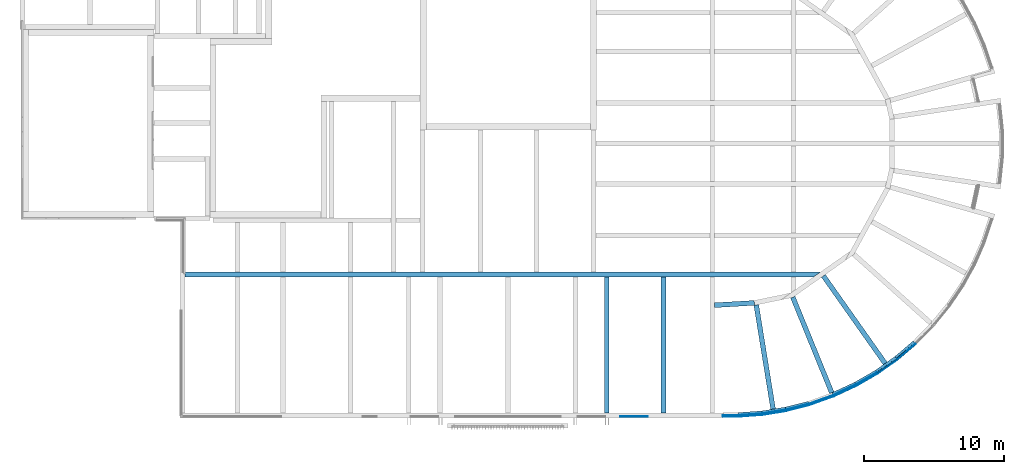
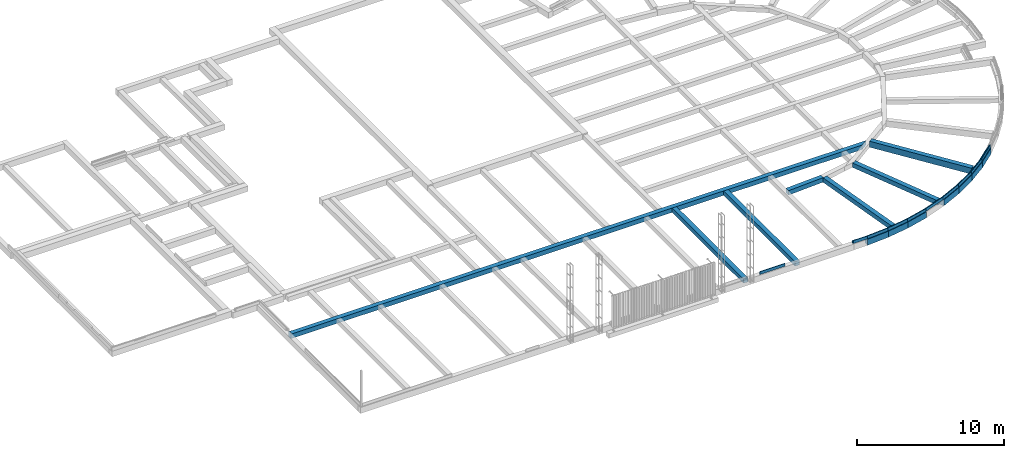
# One storey, part 3 of 11: 33 walls.
"""IFC2X3 building model written with IfcOpenShell, lengths in millimetres."""

import ifcopenshell
import ifcopenshell.guid

model = None  # the IFC model being written
_history = None  # IfcOwnerHistory: only IFC2X3 demands one
_inside = {}  # id of a spatial element -> (the spatial element, [elements in it])
_under = {}  # id of a project, library or spatial element -> (it, [spatial elements below it])
_declared = {}  # id of a project -> (the project, [libraries it declares])
_typed = {}  # id of a type object -> (the type object, [elements of that type])
_made_of = {}  # id of a material, layer set ... -> (it, [elements and type objects made of it])


def new_model(schema):
    """Start an empty IFC model of exactly this schema.

    Asked for "IFC4X3", IfcOpenShell would pick the latest addendum, in which some entities
    have other attributes; the version numbers below select the first issue.
    IFC2X3 requires an IfcOwnerHistory on every rooted entity: one is made here for all.
    """
    global model, _history
    if schema == "IFC4X3":
        model = ifcopenshell.file(schema_version=(4, 3, 0, 0))
    else:
        model = ifcopenshell.file(schema=schema)
    _inside.clear()
    _under.clear()
    _declared.clear()
    _typed.clear()
    _made_of.clear()
    _history = None
    if model.schema == "IFC2X3":
        org = make("IfcOrganization", Name="unknown")
        user = make(
            "IfcPersonAndOrganization",
            ThePerson=make("IfcPerson", FamilyName="unknown"),
            TheOrganization=org,
        )
        app = make(
            "IfcApplication",
            ApplicationDeveloper=org,
            Version="unknown",
            ApplicationFullName="unknown",
            ApplicationIdentifier="unknown",
        )
        _history = make(
            "IfcOwnerHistory",
            OwningUser=user,
            OwningApplication=app,
            ChangeAction="ADDED",
            CreationDate=0,
        )
    return model


def make(cls, **values):
    """One entity of the class cls with the attributes given. An attribute that is None is left unset."""
    return model.create_entity(
        cls, **{name: value for name, value in values.items() if value is not None}
    )


def entity(cls, *values):
    """Any entity or typed value of the class cls, its attributes in the order of the schema. None: left unset."""
    e = model.create_entity(cls)
    for i, value in enumerate(values):
        if value is not None:
            e[i] = value
    return e


def rooted(cls, **values):
    """An entity with a GlobalId (a new one), such as an element, a storey or a relation."""
    return make(cls, GlobalId=ifcopenshell.guid.new(), OwnerHistory=_history, **values)


def si_unit(unit_type, name, prefix=None):
    """IfcSIUnit, for example si_unit("LENGTHUNIT", "METRE", prefix="MILLI")."""
    return make("IfcSIUnit", UnitType=unit_type, Prefix=prefix, Name=name)


def converted_unit(unit_type, name, factor, base, dimensions=None, offset=None):
    """IfcConversionBasedUnit, such as the inch: factor (a typed value) times the base unit."""
    return make(
        "IfcConversionBasedUnit"
        if offset is None
        else "IfcConversionBasedUnitWithOffset",
        ConversionOffset=offset,
        Dimensions=None
        if dimensions is None
        else entity("IfcDimensionalExponents", *dimensions),
        UnitType=unit_type,
        Name=name,
        ConversionFactor=make(
            "IfcMeasureWithUnit", ValueComponent=factor, UnitComponent=base
        ),
    )


def derived_unit(unit_type, elements):
    """IfcDerivedUnit: a product of units, each with its exponent."""
    return make(
        "IfcDerivedUnit",
        Elements=[
            make("IfcDerivedUnitElement", Unit=unit, Exponent=power)
            for unit, power in elements
        ],
        UnitType=unit_type,
    )


def assignment(units):
    """IfcUnitAssignment: the units of a project."""
    return None if units is None else make("IfcUnitAssignment", Units=units)


def point(xyz):
    """IfcCartesianPoint."""
    return None if xyz is None else make("IfcCartesianPoint", Coordinates=xyz)


def direction(xyz):
    """IfcDirection."""
    return None if xyz is None else make("IfcDirection", DirectionRatios=xyz)


def frame(location, z_axis=None, x_axis=None):
    """IfcAxis2Placement3D, a coordinate frame: its origin and axes. An axis left out is left unset."""
    return make(
        "IfcAxis2Placement3D",
        Location=point(location),
        Axis=direction(z_axis),
        RefDirection=direction(x_axis),
    )


def frame_2d(location, x_axis=None):
    """IfcAxis2Placement2D, a coordinate frame in the plane: its origin and x axis."""
    return make(
        "IfcAxis2Placement2D", Location=point(location), RefDirection=direction(x_axis)
    )


def origin():
    """The frame at (0, 0, 0) with its axes left unset."""
    return frame((0.0, 0.0, 0.0))


def place(relative_to, where):
    """IfcLocalPlacement: puts the frame where relative to a parent placement (None: the world)."""
    return make(
        "IfcLocalPlacement", PlacementRelTo=relative_to, RelativePlacement=where
    )


def context(
    kind, dimensions, precision=None, world=None, true_north=None, identifier=None
):
    """IfcGeometricRepresentationContext, for example the 3D "Model" context."""
    return make(
        "IfcGeometricRepresentationContext",
        ContextIdentifier=identifier,
        ContextType=kind,
        CoordinateSpaceDimension=dimensions,
        Precision=precision,
        WorldCoordinateSystem=world,
        TrueNorth=true_north,
    )


def subcontext(parent, identifier, kind, view, scale=None):
    """IfcGeometricRepresentationSubContext, for example "Body" below "Model"."""
    return make(
        "IfcGeometricRepresentationSubContext",
        ContextIdentifier=identifier,
        ContextType=kind,
        ParentContext=parent,
        TargetScale=scale,
        TargetView=view,
    )


def project(units=None, contexts=None):
    """IfcProject with its units and contexts."""
    return rooted(
        "IfcProject",
        Name="project",
        RepresentationContexts=contexts,
        UnitsInContext=assignment(units),
    )


def spatial(cls, under=None, at=None, **own):
    """A site, building, storey or space (cls), placed at a placement, below another one or the project."""
    s = rooted(cls, ObjectPlacement=at, **own)
    if under is not None:
        _under.setdefault(under.id(), (under, []))[1].append(s)
    return s


def polyline(points):
    """IfcPolyline through the points."""
    return make("IfcPolyline", Points=[point(p) for p in points])


def profile(cls, at=None, kind="AREA", **sizes):
    """A parametric profile (cls). Its sizes go by their IFC names, for example OverallWidth=200.0."""
    return make(cls, ProfileType=kind, Position=at, **sizes)


def rectangle(**sizes):
    """IfcRectangleProfileDef."""
    return profile("IfcRectangleProfileDef", **sizes)


def outline(outer, holes=None, kind="AREA"):
    """IfcArbitraryClosedProfileDef: a profile drawn as a closed curve; with holes, ...WithVoids."""
    if holes is None:
        return make("IfcArbitraryClosedProfileDef", ProfileType=kind, OuterCurve=outer)
    return make(
        "IfcArbitraryProfileDefWithVoids",
        ProfileType=kind,
        OuterCurve=outer,
        InnerCurves=holes,
    )


def extrude(swept, where, along, depth):
    """IfcExtrudedAreaSolid: the profile swept, set in the frame where, extruded along a direction by depth."""
    return make(
        "IfcExtrudedAreaSolid",
        SweptArea=swept,
        Position=where,
        ExtrudedDirection=direction(along),
        Depth=depth,
    )


def clip(a, b, op="DIFFERENCE"):
    """IfcBooleanClippingResult: the solid a cut by the half space b."""
    return make(
        "IfcBooleanClippingResult", Operator=op, FirstOperand=a, SecondOperand=b
    )


def bounded_halfspace(plane, agree, where, boundary):
    """IfcPolygonalBoundedHalfSpace: a half space limited to a polygon's prism."""
    return make(
        "IfcPolygonalBoundedHalfSpace",
        BaseSurface=make("IfcPlane", Position=plane),
        AgreementFlag=agree,
        Position=where,
        PolygonalBoundary=boundary,
    )


def shape(context_of_items, identifier, shape_type, items):
    """IfcShapeRepresentation: the items that make up one representation, for example the "Body"."""
    return make(
        "IfcShapeRepresentation",
        ContextOfItems=context_of_items,
        RepresentationIdentifier=identifier,
        RepresentationType=shape_type,
        Items=items,
    )


def material(Name=None, Category=None):
    """IfcMaterial."""
    return make("IfcMaterial", Name=Name, Category=Category)


def layer(
    of_material, thickness, ventilated=None, Name=None, Category=None, Priority=None
):
    """IfcMaterialLayer: one layer of a wall or slab, of a material (None: an air gap)."""
    return make(
        "IfcMaterialLayer",
        Material=of_material,
        LayerThickness=thickness,
        IsVentilated=ventilated,
        Name=Name,
        Category=Category,
        Priority=Priority,
    )


def layer_set(layers, Name=None):
    """IfcMaterialLayerSet."""
    return make("IfcMaterialLayerSet", MaterialLayers=layers, LayerSetName=Name)


def layer_usage(for_layer_set, set_direction, sense, offset, extent=None):
    """IfcMaterialLayerSetUsage: how a layer set lies in its element."""
    return make(
        "IfcMaterialLayerSetUsage",
        ForLayerSet=for_layer_set,
        LayerSetDirection=set_direction,
        DirectionSense=sense,
        OffsetFromReferenceLine=offset,
        ReferenceExtent=extent,
    )


def made_of(thing, what):
    """Note that an element or type object is made of a material, layer set ...; save() writes the relation."""
    if what is not None:
        _made_of.setdefault(what.id(), (what, []))[1].append(thing)
    return thing


def type_object(cls, material=None, **own):
    """A type object (cls), such as IfcWallType, which elements share."""
    return made_of(rooted(cls, **own), material)


def element(
    cls,
    number,
    at=None,
    inside=None,
    cuts=None,
    type_object=None,
    material=None,
    context=None,
    identifier="Body",
    shape_type=None,
    held_by="IfcProductDefinitionShape",
    body=None,
    shapes=None,
    **own,
):
    """One element of the class cls, such as IfcWall. Its Tag is "e" and its number.

    at: its placement. inside: the storey or other place that contains it. cuts: it is an
    opening in that element (IfcRelVoidsElement). A single representation is given by context,
    identifier, shape_type and body (its items); several are given by shapes. held_by: the class
    of the entity that holds the representations. save() writes the other relations.
    """
    e = rooted(cls, Tag="e%d" % number, ObjectPlacement=at, **own)
    if body is not None:
        shapes = [shape(context, identifier, shape_type, body)]
    if shapes is not None:
        e.Representation = make(held_by, Representations=shapes)
    if inside is not None:
        _inside.setdefault(inside.id(), (inside, []))[1].append(e)
    if cuts is not None:
        rooted(
            "IfcRelVoidsElement", RelatingBuildingElement=cuts, RelatedOpeningElement=e
        )
    if type_object is not None:
        _typed.setdefault(type_object.id(), (type_object, []))[1].append(e)
    return made_of(e, material)


def aggregate(whole, parts):
    """IfcRelAggregates: a whole, such as a stair, and the parts it consists of."""
    return rooted("IfcRelAggregates", RelatingObject=whole, RelatedObjects=parts)


def save(model, path):
    """Write the relations noted so far, then the file.

    IfcRelAggregates (storeys below a building ...), IfcRelContainedInSpatialStructure (elements
    in a storey), IfcRelDefinesByType, IfcRelAssociatesMaterial and IfcRelDeclares: one each for
    every whole, place, type object, material and project.
    """
    for whole, parts in _under.values():
        aggregate(whole, parts)
    for where, things in _inside.values():
        rooted(
            "IfcRelContainedInSpatialStructure",
            RelatedElements=things,
            RelatingStructure=where,
        )
    for kind, things in _typed.values():
        rooted("IfcRelDefinesByType", RelatedObjects=things, RelatingType=kind)
    for what, things in _made_of.values():
        rooted("IfcRelAssociatesMaterial", RelatedObjects=things, RelatingMaterial=what)
    for by, libraries in _declared.values():
        rooted("IfcRelDeclares", RelatingContext=by, RelatedDefinitions=libraries)
    model.write(path)


model = new_model("IFC2X3")

# Units and contexts
model_context = context("Model", 3, precision=0.01, world=origin(), true_north=direction((6.12303176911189e-17, 1.0)))
body_context = subcontext(model_context, "Body", "Model", "MODEL_VIEW")
ifc_project = project(units=[si_unit("LENGTHUNIT", "METRE", prefix="MILLI"), si_unit("AREAUNIT", "SQUARE_METRE"), si_unit("VOLUMEUNIT", "CUBIC_METRE"), converted_unit("PLANEANGLEUNIT", "DEGREE", entity("IfcRatioMeasure", 0.0174532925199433), si_unit("PLANEANGLEUNIT", "RADIAN"), dimensions=[0, 0, 0, 0, 0, 0, 0]), si_unit("MASSUNIT", "GRAM", prefix="KILO"), derived_unit("MASSDENSITYUNIT", [(si_unit("MASSUNIT", "GRAM", prefix="KILO"), 1), (si_unit("LENGTHUNIT", "METRE"), -3)]), derived_unit("MOMENTOFINERTIAUNIT", [(si_unit("LENGTHUNIT", "METRE"), 4)]), si_unit("TIMEUNIT", "SECOND"), si_unit("FREQUENCYUNIT", "HERTZ"), si_unit("THERMODYNAMICTEMPERATUREUNIT", "DEGREE_CELSIUS"), derived_unit("THERMALTRANSMITTANCEUNIT", [(si_unit("MASSUNIT", "GRAM", prefix="KILO"), 1), (si_unit("THERMODYNAMICTEMPERATUREUNIT", "KELVIN"), -1), (si_unit("TIMEUNIT", "SECOND"), -3)]), derived_unit("VOLUMETRICFLOWRATEUNIT", [(si_unit("LENGTHUNIT", "METRE"), 3), (si_unit("TIMEUNIT", "SECOND"), -1)]), si_unit("ELECTRICCURRENTUNIT", "AMPERE"), si_unit("ELECTRICVOLTAGEUNIT", "VOLT"), si_unit("POWERUNIT", "WATT"), si_unit("FORCEUNIT", "NEWTON", prefix="KILO"), si_unit("ILLUMINANCEUNIT", "LUX"), si_unit("LUMINOUSFLUXUNIT", "LUMEN"), si_unit("LUMINOUSINTENSITYUNIT", "CANDELA"), derived_unit("USERDEFINED", [(si_unit("MASSUNIT", "GRAM", prefix="KILO"), -1), (si_unit("LENGTHUNIT", "METRE"), -2), (si_unit("TIMEUNIT", "SECOND"), 3), (si_unit("LUMINOUSFLUXUNIT", "LUMEN"), 1)]), derived_unit("LINEARVELOCITYUNIT", [(si_unit("LENGTHUNIT", "METRE"), 1), (si_unit("TIMEUNIT", "SECOND"), -1)]), si_unit("PRESSUREUNIT", "PASCAL"), derived_unit("USERDEFINED", [(si_unit("LENGTHUNIT", "METRE"), -2), (si_unit("MASSUNIT", "GRAM", prefix="KILO"), 1), (si_unit("TIMEUNIT", "SECOND"), -2)]), derived_unit("LINEARFORCEUNIT", [(si_unit("MASSUNIT", "GRAM", prefix="KILO"), 1), (si_unit("LENGTHUNIT", "METRE"), 1), (si_unit("TIMEUNIT", "SECOND"), -2), (si_unit("LENGTHUNIT", "METRE"), -1)]), derived_unit("PLANARFORCEUNIT", [(si_unit("MASSUNIT", "GRAM", prefix="KILO"), 1), (si_unit("LENGTHUNIT", "METRE"), 1), (si_unit("TIMEUNIT", "SECOND"), -2), (si_unit("LENGTHUNIT", "METRE"), -2)])], contexts=[model_context])

# Site, building, storey
site_placement = place(None, origin())
site = spatial("IfcSite", under=ifc_project, at=site_placement, Name="Default", CompositionType="ELEMENT")
building_placement = place(site_placement, origin())
building = spatial("IfcBuilding", under=site, at=building_placement, Name="-", CompositionType="ELEMENT")
storey_placement = place(building_placement, frame((0.0, 0.0, -780.0)))
storey = spatial("IfcBuildingStorey", under=building, at=storey_placement, Name="ok. fundering", CompositionType="ELEMENT", Elevation=-780.0)

# Walls
ifc_material_1 = material(Name="NLRS_g2_baksteen  rood genuanceerd Klamp")
ifc_layer_1 = layer(ifc_material_1, 50.0)
ifc_layer_set_1 = layer_set([ifc_layer_1], Name="Basic Wall:NLRS_20_WA_Metselwerk klamp, Eems wf-p-0081-25")
ifc_layer_usage_1 = layer_usage(ifc_layer_set_1, "AXIS2", "NEGATIVE", 25.0)
wall_type_1 = type_object("IfcWallType", Name="Basic Wall:NLRS_20_WA_Metselwerk klamp, Eems wf-p-0081-25", PredefinedType="STANDARD", material=ifc_layer_set_1)
wall_1_placement = place(storey_placement, frame((50137.2859529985, 90.4406357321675, 500.0)))
element("IfcWallStandardCase", 1, at=wall_1_placement, inside=storey, type_object=wall_type_1, material=ifc_layer_usage_1, Name="Basic Wall:NLRS_20_WA_Metselwerk klamp, Eems wf-p-0081-25", ObjectType="Basic Wall:NLRS_20_WA_Metselwerk klamp, Eems wf-p-0081-25", context=body_context, shape_type="SweptSolid", body=[
    extrude(outline(polyline([(1095.5306523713, -25.0), (1093.72917288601, 25.0), (0.0, 25.0), (0.0, -25.0), (1095.5306523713, -25.0)])), origin(), (0.0, 0.0, 1.0), 239.99999999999),
])
ifc_layer_usage_2 = layer_usage(ifc_layer_set_1, "AXIS2", "NEGATIVE", 25.0)
wall_2_placement = place(storey_placement, frame((51231.0174614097, 90.3758133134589, 500.0), z_axis=(0.0, 0.0, 1.0), x_axis=(0.99740710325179, 0.0719657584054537, 0.0)))
element("IfcWallStandardCase", 2, at=wall_2_placement, inside=storey, type_object=wall_type_1, material=ifc_layer_usage_2, Name="Basic Wall:NLRS_20_WA_Metselwerk klamp, Eems wf-p-0081-25", ObjectType="Basic Wall:NLRS_20_WA_Metselwerk klamp, Eems wf-p-0081-25", context=body_context, shape_type="SweptSolid", body=[
    extrude(outline(polyline([(1714.73810612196, -25.0), (1712.52857926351, 25.0), (1.80147948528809, 25.0), (0.0, -25.0), (1714.73810612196, -25.0)])), origin(), (0.0, 0.0, 1.0), 239.99999999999),
])
ifc_layer_usage_3 = layer_usage(ifc_layer_set_1, "AXIS2", "NEGATIVE", 25.0)
wall_3_placement = place(storey_placement, frame((52939.1169391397, 213.522344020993, 500.0), z_axis=(0.0, 0.0, 1.0), x_axis=(0.987171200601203, 0.159665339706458, 0.0)))
element("IfcWallStandardCase", 3, at=wall_3_placement, inside=storey, type_object=wall_type_1, material=ifc_layer_usage_3, Name="Basic Wall:NLRS_20_WA_Metselwerk klamp, Eems wf-p-0081-25", ObjectType="Basic Wall:NLRS_20_WA_Metselwerk klamp, Eems wf-p-0081-25", context=body_context, shape_type="SweptSolid", body=[
    extrude(outline(polyline([(1720.67588890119, -25.0), (1718.46358396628, 25.0), (2.20952685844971, 25.0), (0.0, -25.0), (1720.67588890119, -25.0)])), origin(), (0.0, 0.0, 1.0), 239.99999999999),
])
ifc_layer_usage_4 = layer_usage(ifc_layer_set_1, "AXIS2", "NEGATIVE", 25.0)
wall_4_placement = place(storey_placement, frame((54635.5545641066, 487.805664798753, 500.0), z_axis=(0.0, 0.0, 1.0), x_axis=(0.969212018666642, 0.246227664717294, 0.0)))
element("IfcWallStandardCase", 4, at=wall_4_placement, inside=storey, type_object=wall_type_1, material=ifc_layer_usage_4, Name="Basic Wall:NLRS_20_WA_Metselwerk klamp, Eems wf-p-0081-25", ObjectType="Basic Wall:NLRS_20_WA_Metselwerk klamp, Eems wf-p-0081-25", context=body_context, shape_type="SweptSolid", body=[
    extrude(outline(polyline([(1723.63992128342, -25.0), (1721.18424361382, 25.0), (2.21230493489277, 25.0), (0.0, -25.0), (1723.63992128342, -25.0)])), origin(), (0.0, 0.0, 1.0), 239.99999999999),
])
ifc_layer_usage_5 = layer_usage(ifc_layer_set_1, "AXIS2", "NEGATIVE", 25.0)
wall_5_placement = place(storey_placement, frame((42777.2859170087, 81.1212223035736, 500.0)))
element("IfcWallStandardCase", 5, at=wall_5_placement, inside=storey, type_object=wall_type_1, material=ifc_layer_usage_5, Name="Basic Wall:NLRS_20_WA_Metselwerk klamp, Eems wf-p-0081-25", ObjectType="Basic Wall:NLRS_20_WA_Metselwerk klamp, Eems wf-p-0081-25", context=body_context, shape_type="SweptSolid", body=[
    extrude(rectangle(XDim=1980.00003598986, YDim=50.0, at=frame_2d((990.00001799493, -3.5527136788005e-15), x_axis=(-1.0, 0.0))), origin(), (0.0, 0.0, 1.0), 239.99999999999),
])
ifc_layer_usage_6 = layer_usage(ifc_layer_set_1, "AXIS2", "NEGATIVE", 25.0)
wall_6_placement = place(storey_placement, frame((56303.7823719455, 911.493684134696, 500.0), z_axis=(0.0, 0.0, 1.0), x_axis=(0.940419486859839, 0.340016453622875, 0.0)))
element("IfcWallStandardCase", 6, at=wall_6_placement, inside=storey, type_object=wall_type_1, material=ifc_layer_usage_6, Name="Basic Wall:NLRS_20_WA_Metselwerk klamp, Eems wf-p-0081-25", ObjectType="Basic Wall:NLRS_20_WA_Metselwerk klamp, Eems wf-p-0081-25", context=body_context, shape_type="SweptSolid", body=[
    extrude(outline(polyline([(1848.35097152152, -25.0), (1846.19953801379, 25.0), (2.45567766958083, 25.0), (0.0, -25.0), (1848.35097152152, -25.0)])), origin(), (0.0, 0.0, 1.0), 239.99999999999),
])
ifc_layer_usage_7 = layer_usage(ifc_layer_set_1, "AXIS2", "NEGATIVE", 25.0)
wall_7_placement = place(storey_placement, frame((58040.019551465, 1539.1463587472, 500.0), z_axis=(0.0, 0.0, 1.0), x_axis=(0.9077367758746, 0.419540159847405, 0.0)))
element("IfcWallStandardCase", 7, at=wall_7_placement, inside=storey, type_object=wall_type_1, material=ifc_layer_usage_7, Name="Basic Wall:NLRS_20_WA_Metselwerk klamp, Eems wf-p-0081-25", ObjectType="Basic Wall:NLRS_20_WA_Metselwerk klamp, Eems wf-p-0081-25", context=body_context, shape_type="SweptSolid", body=[
    extrude(outline(polyline([(1820.13588976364, -25.0), (1817.86540304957, 25.0), (2.15143350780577, 25.0), (0.0, -25.0), (1820.13588976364, -25.0)])), origin(), (0.0, 0.0, 1.0), 239.99999999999),
])
ifc_layer_usage_8 = layer_usage(ifc_layer_set_1, "AXIS2", "NEGATIVE", 25.0)
wall_8_placement = place(storey_placement, frame((59690.2102390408, 2301.72246363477, 500.0), z_axis=(0.0, 0.0, 1.0), x_axis=(0.865976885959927, 0.500084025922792, 0.0)))
element("IfcWallStandardCase", 8, at=wall_8_placement, inside=storey, type_object=wall_type_1, material=ifc_layer_usage_8, Name="Basic Wall:NLRS_20_WA_Metselwerk klamp, Eems wf-p-0081-25", ObjectType="Basic Wall:NLRS_20_WA_Metselwerk klamp, Eems wf-p-0081-25", context=body_context, shape_type="SweptSolid", body=[
    extrude(outline(polyline([(1735.82446358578, -25.0), (1733.55261613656, 25.0), (2.27048671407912, 25.0), (0.0, -25.0), (1735.82446358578, -25.0)])), origin(), (0.0, 0.0, 1.0), 239.99999999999),
])
ifc_layer_usage_9 = layer_usage(ifc_layer_set_1, "AXIS2", "NEGATIVE", 25.0)
wall_9_placement = place(storey_placement, frame((61191.4823037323, 3168.55756875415, 500.0), z_axis=(0.0, 0.0, 1.0), x_axis=(0.81705764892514, 0.576555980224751, 0.0)))
element("IfcWallStandardCase", 9, at=wall_9_placement, inside=storey, type_object=wall_type_1, material=ifc_layer_usage_9, Name="Basic Wall:NLRS_20_WA_Metselwerk klamp, Eems wf-p-0081-25", ObjectType="Basic Wall:NLRS_20_WA_Metselwerk klamp, Eems wf-p-0081-25", context=body_context, shape_type="SweptSolid", body=[
    extrude(outline(polyline([(1733.38433557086, -25.0), (1731.11384885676, 25.0), (2.27184744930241, 25.0), (0.0, -25.0), (1733.38433557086, -25.0)])), origin(), (0.0, 0.0, 1.0), 239.99999999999),
])
ifc_layer_usage_10 = layer_usage(ifc_layer_set_1, "AXIS2", "NEGATIVE", 25.0)
wall_10_placement = place(storey_placement, frame((62605.96525443, 4166.56023746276, 500.0), z_axis=(0.0, 0.0, 1.0), x_axis=(0.761440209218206, 0.648235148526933, 0.0)))
element("IfcWallStandardCase", 10, at=wall_10_placement, inside=storey, type_object=wall_type_1, material=ifc_layer_usage_10, Name="Basic Wall:NLRS_20_WA_Metselwerk klamp, Eems wf-p-0081-25", ObjectType="Basic Wall:NLRS_20_WA_Metselwerk klamp, Eems wf-p-0081-25", context=body_context, shape_type="SweptSolid", body=[
    extrude(outline(polyline([(1733.38823576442, -25.0), (1731.11774905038, 25.0), (2.27048671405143, 25.0), (0.0, -25.0), (1733.38823576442, -25.0)])), origin(), (0.0, 0.0, 1.0), 239.99999999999),
])
ifc_material_2 = material(Name="NLRS_f2_beton")
ifc_layer_2 = layer(ifc_material_2, 350.0)
ifc_layer_set_2 = layer_set([ifc_layer_2], Name="Basic Wall:NLRS_16_WA_funderingsbalk 350x...mm_gen_aly")
ifc_layer_usage_11 = layer_usage(ifc_layer_set_2, "AXIS2", "NEGATIVE", 175.0)
wall_type_2 = type_object("IfcWallType", Name="Basic Wall:NLRS_16_WA_funderingsbalk 350x...mm_gen_aly", PredefinedType="STANDARD", material=ifc_layer_set_2)
wall_11_placement = place(storey_placement, frame((52936.3166506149, 313.677962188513, 0.0), z_axis=(0.0, 0.0, 1.0), x_axis=(-0.99740710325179, -0.0719657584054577, 0.0)))
element("IfcWallStandardCase", 11, at=wall_11_placement, inside=storey, type_object=wall_type_2, material=ifc_layer_usage_11, Name="Basic Wall:NLRS_16_WA_funderingsbalk 350x...mm_gen_aly", ObjectType="Basic Wall:NLRS_16_WA_funderingsbalk 350x...mm_gen_aly", context=body_context, shape_type="Clipping", body=[
    clip(clip(extrude(outline(polyline([(1706.1387560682, -175.0), (1718.74911246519, 175.0), (0.0, 175.0), (15.4666880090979, -175.0), (1706.1387560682, -175.0)])), origin(), (0.0, 0.0, 1.0), 499.999999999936), bounded_halfspace(frame((1712.84025975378, 11.0, 370.0), z_axis=(0.0, 0.0, -1.0), x_axis=(-0.0719657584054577, -0.99740710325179, 0.0)), True, frame((1712.84025975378, 11.0, 370.0), z_axis=(0.0, 0.0, -1.0), x_axis=(-0.0719657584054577, -0.99740710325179, 0.0)), polyline([(0.0, 0.0), (186.0, -6.70150368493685), (307.670497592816, 1679.5868262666), (122.744294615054, 1701.1705850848), (0.0, 0.0)]))), bounded_halfspace(frame((7.24724809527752, 11.0, 370.0), z_axis=(0.0, 1.0, 0.0), x_axis=(0.0, 0.0, 1.0)), True, frame((7.24724809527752, 11.0, 370.0), z_axis=(0.0, 1.0, 0.0), x_axis=(0.0, 0.0, 1.0)), polyline([(0.0, 0.0), (130.0, 0.0), (130.0, 1705.59301165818), (0.0, 1705.5930116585), (0.0, 0.0)]))),
])
ifc_layer_usage_12 = layer_usage(ifc_layer_set_2, "AXIS2", "NEGATIVE", 175.0)
wall_12_placement = place(storey_placement, frame((54623.9332695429, 587.324549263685, 0.0), z_axis=(0.0, 0.0, 1.0), x_axis=(-0.987171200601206, -0.159665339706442, 0.0)))
element("IfcWallStandardCase", 12, at=wall_12_placement, inside=storey, type_object=wall_type_2, material=ifc_layer_usage_12, Name="Basic Wall:NLRS_16_WA_funderingsbalk 350x...mm_gen_aly", ObjectType="Basic Wall:NLRS_16_WA_funderingsbalk 350x...mm_gen_aly", context=body_context, shape_type="Clipping", body=[
    clip(clip(extrude(outline(polyline([(1709.62825460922, -175.0), (1725.09494261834, 175.0), (0.0, 175.0), (15.4666880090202, -175.0), (713.116251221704, -175.0), (1063.1162512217, -175.0), (1709.62825460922, -175.0)])), origin(), (0.0, 0.0, 1.0), 499.999999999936), bounded_halfspace(frame((1717.84769452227, 11.0, 370.0), z_axis=(0.0, 0.0, -1.0), x_axis=(-0.159665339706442, -0.987171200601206, 0.0)), True, frame((1717.84769452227, 11.0, 370.0), z_axis=(0.0, 0.0, -1.0), x_axis=(-0.159665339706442, -0.987171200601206, 0.0)), polyline([(0.0, 0.0), (184.926202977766, -21.5837588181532), (288.151761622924, 616.634271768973), (344.034630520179, 962.144191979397), (455.425085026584, 1650.84374889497), (273.122590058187, 1688.64924369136), (0.0, 0.0)]))), bounded_halfspace(frame((7.25358211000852, 11.0, 370.0), z_axis=(0.0, 1.0, 0.0), x_axis=(0.0, 0.0, 1.0)), True, frame((7.25358211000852, 11.0, 370.0), z_axis=(0.0, 1.0, 0.0), x_axis=(0.0, 0.0, 1.0)), polyline([(0.0, 0.0), (130.0, -0.00630929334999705), (130.0, 1710.59411241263), (0.0, 1710.59411241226), (0.0, 0.0)]))),
])
ifc_layer_usage_13 = layer_usage(ifc_layer_set_2, "AXIS2", "NEGATIVE", 175.0)
wall_13_placement = place(storey_placement, frame((56282.0680692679, 1009.08062306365, 0.0), z_axis=(0.0, 0.0, 1.0), x_axis=(-0.969239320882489, -0.24612017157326, 0.0)))
element("IfcWallStandardCase", 13, at=wall_13_placement, inside=storey, type_object=wall_type_2, material=ifc_layer_usage_13, Name="Basic Wall:NLRS_16_WA_funderingsbalk 350x...mm_gen_aly", ObjectType="Basic Wall:NLRS_16_WA_funderingsbalk 350x...mm_gen_aly", context=body_context, shape_type="Clipping", body=[
    clip(clip(extrude(outline(polyline([(1710.90197992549, -175.0), (1726.36866793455, 175.0), (0.0, 175.0), (17.2091991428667, -175.0), (1710.90197992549, -175.0)])), origin(), (0.0, 0.0, 1.0), 499.999999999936), bounded_halfspace(frame((1719.12772916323, 10.9994412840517, 370.0), z_axis=(0.0, 0.0, -1.0), x_axis=(-0.24612017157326, -0.969239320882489, 0.0)), True, frame((1719.12772916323, 10.9994412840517, 370.0), z_axis=(0.0, 0.0, -1.0), x_axis=(-0.24612017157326, -0.969239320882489, 0.0)), polyline([(0.0, 0.0), (182.30249496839, -37.8054947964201), (599.154452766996, 1603.78814583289), (421.308988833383, 1658.37472413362), (0.0, 0.0)]))), bounded_halfspace(frame((8.07309715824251, 10.8096747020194, 370.0), z_axis=(-0.000110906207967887, 0.999999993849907, 0.0), x_axis=(0.0, 0.0, 1.0)), True, frame((8.07309715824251, 10.8096747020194, 370.0), z_axis=(-0.000110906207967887, 0.999999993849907, 0.0), x_axis=(0.0, 0.0, 1.0)), polyline([(0.0, 0.0), (130.0, 0.0), (130.0, 1711.04830848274), (0.0, 1711.05464252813), (0.0, 0.0)]))),
])
ifc_layer_usage_14 = layer_usage(ifc_layer_set_2, "AXIS2", "NEGATIVE", 175.0)
wall_14_placement = place(storey_placement, frame((59652.3308239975, 2394.49269882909, 0.0), z_axis=(0.0, 0.0, 1.0), x_axis=(-0.907736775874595, -0.419540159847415, 0.0)))
element("IfcWallStandardCase", 14, at=wall_14_placement, inside=storey, type_object=wall_type_2, material=ifc_layer_usage_14, Name="Basic Wall:NLRS_16_WA_funderingsbalk 350x...mm_gen_aly", ObjectType="Basic Wall:NLRS_16_WA_funderingsbalk 350x...mm_gen_aly", context=body_context, shape_type="Clipping", body=[
    clip(clip(extrude(outline(polyline([(1809.4977754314, -175.0), (1824.55780998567, 175.0), (0.0, 175.0), (15.8934069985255, -175.0), (1654.12872969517, -175.0), (1809.4977754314, -175.0)])), origin(), (0.0, 0.0, 1.0), 499.999999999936), bounded_halfspace(frame((1817.50110807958, 11.0, 370.0), z_axis=(0.0, 0.0, -1.0), x_axis=(-0.419540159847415, -0.907736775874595, 0.0)), True, frame((1817.50110807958, 11.0, 370.0), z_axis=(0.0, 0.0, -1.0), x_axis=(-0.419540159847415, -0.907736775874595, 0.0)), polyline([(0.0, 0.0), (172.196759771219, -70.7695503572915), (237.380314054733, 70.264646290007), (924.685823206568, 1557.35109623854), (759.390307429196, 1643.05250192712), (0.0, 0.0)]))), bounded_halfspace(frame((7.44719642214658, 11.0, 370.0), z_axis=(0.0, 1.0, 0.0), x_axis=(0.0, 0.0, 1.0)), True, frame((7.44719642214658, 11.0, 370.0), z_axis=(0.0, 1.0, 0.0), x_axis=(0.0, 0.0, 1.0)), polyline([(0.0, 0.0), (130.0, 0.0), (130.0, 1810.0539116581), (0.0, 1810.05391165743), (0.0, 0.0)]))),
])
ifc_layer_usage_15 = layer_usage(ifc_layer_set_2, "AXIS2", "NEGATIVE", 175.0)
wall_15_placement = place(storey_placement, frame((61145.3530673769, 3257.5143528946, 0.0), z_axis=(0.0, 0.0, 1.0), x_axis=(-0.865976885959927, -0.500084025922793, 0.0)))
element("IfcWallStandardCase", 15, at=wall_15_placement, inside=storey, type_object=wall_type_2, material=ifc_layer_usage_15, Name="Basic Wall:NLRS_16_WA_funderingsbalk 350x...mm_gen_aly", ObjectType="Basic Wall:NLRS_16_WA_funderingsbalk 350x...mm_gen_aly", context=body_context, shape_type="Clipping", body=[
    clip(clip(extrude(outline(polyline([(1724.47339075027, -175.0), (1740.36679774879, 175.0), (0.0, 175.0), (15.9029321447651, -175.0), (1724.47339075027, -175.0)])), origin(), (0.0, 0.0, 1.0), 499.999999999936), bounded_halfspace(frame((1732.91960132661, 11.0, 370.0), z_axis=(0.0, 0.0, -1.0), x_axis=(-0.500084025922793, -0.865976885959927, 0.0)), True, frame((1732.91960132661, 11.0, 370.0), z_axis=(0.0, 0.0, -1.0), x_axis=(-0.500084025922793, -0.865976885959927, 0.0)), polyline([(0.0, 0.0), (165.295515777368, -85.7014056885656), (1019.72430928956, 1393.88111949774), (862.878954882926, 1494.21535497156), (0.0, 0.0)]))), bounded_halfspace(frame((7.45165963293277, 11.0, 370.0), z_axis=(0.0, 1.0, 0.0), x_axis=(0.0, 0.0, 1.0)), True, frame((7.45165963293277, 11.0, 370.0), z_axis=(0.0, 1.0, 0.0), x_axis=(0.0, 0.0, 1.0)), polyline([(0.0, 0.0), (130.0, 0.0), (130.0, 1725.46794169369), (0.0, 1725.46794169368), (0.0, 0.0)]))),
])
ifc_layer_usage_16 = layer_usage(ifc_layer_set_2, "AXIS2", "NEGATIVE", 175.0)
wall_16_placement = place(storey_placement, frame((62551.9567541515, 4250.96550104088, 0.0), z_axis=(0.0, 0.0, 1.0), x_axis=(-0.817057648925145, -0.576555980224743, 0.0)))
element("IfcWallStandardCase", 16, at=wall_16_placement, inside=storey, type_object=wall_type_2, material=ifc_layer_usage_16, Name="Basic Wall:NLRS_16_WA_funderingsbalk 350x...mm_gen_aly", ObjectType="Basic Wall:NLRS_16_WA_funderingsbalk 350x...mm_gen_aly", context=body_context, shape_type="Clipping", body=[
    clip(clip(extrude(outline(polyline([(1722.02373758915, -175.0), (1737.92666973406, 175.0), (0.0, 175.0), (15.8934069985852, -175.0), (697.746244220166, -175.0), (1047.74624422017, -175.0), (1722.02373758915, -175.0)])), origin(), (0.0, 0.0, 1.0), 499.999999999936), bounded_halfspace(frame((1730.47501010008, 11.0, 370.0), z_axis=(0.0, 0.0, -1.0), x_axis=(-0.576555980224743, -0.817057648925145, 0.0)), True, frame((1730.47501010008, 11.0, 370.0), z_axis=(0.0, 0.0, -1.0), x_axis=(-0.576555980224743, -0.817057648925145, 0.0)), polyline([(0.0, 0.0), (156.845354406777, -100.334235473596), (1140.52499955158, 1293.67260119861), (993.421990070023, 1407.81305447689), (0.0, 0.0)]))), bounded_halfspace(frame((7.44719642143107, 11.0, 370.0), z_axis=(0.0, 1.0, 0.0), x_axis=(0.0, 0.0, 1.0)), True, frame((7.44719642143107, 11.0, 370.0), z_axis=(0.0, 1.0, 0.0), x_axis=(0.0, 0.0, 1.0)), polyline([(0.0, 0.0), (130.0, 0.0), (130.0, 1723.02781367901), (0.0, 1723.02781367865), (0.0, 0.0)]))),
])
ifc_layer_usage_17 = layer_usage(ifc_layer_set_2, "AXIS2", "NEGATIVE", 175.0)
wall_17_placement = place(storey_placement, frame((63862.7420803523, 5367.81924814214, 0.0), z_axis=(0.0, 0.0, 1.0), x_axis=(-0.761440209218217, -0.64823514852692, 0.0)))
element("IfcWallStandardCase", 17, at=wall_17_placement, inside=storey, type_object=wall_type_2, material=ifc_layer_usage_17, Name="Basic Wall:NLRS_16_WA_funderingsbalk 350x...mm_gen_aly", ObjectType="Basic Wall:NLRS_16_WA_funderingsbalk 350x...mm_gen_aly", context=body_context, shape_type="Clipping", body=[
    clip(clip(extrude(outline(polyline([(1722.03580219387, -175.0), (1737.92920919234, 175.0), (0.0, 175.0), (15.8934069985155, -175.0), (1722.03580219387, -175.0)])), origin(), (0.0, 0.0, 1.0), 499.999999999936), bounded_halfspace(frame((1730.4820127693, 11.0, 370.0), z_axis=(0.0, 0.0, -1.0), x_axis=(-0.64823514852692, -0.761440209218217, 0.0)), True, frame((1730.4820127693, 11.0, 370.0), z_axis=(0.0, 0.0, -1.0), x_axis=(-0.64823514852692, -0.761440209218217, 0.0)), polyline([(0.0, 0.0), (147.103009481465, -114.140453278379), (1253.084478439, 1184.98496907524), (1116.93173009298, 1311.98799105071), (0.0, 0.0)]))), bounded_halfspace(frame((7.44719642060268, 11.0, 370.0), z_axis=(0.0, 1.0, 0.0), x_axis=(0.0, 0.0, 1.0)), True, frame((7.44719642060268, 11.0, 370.0), z_axis=(0.0, 1.0, 0.0), x_axis=(0.0, 0.0, 1.0)), polyline([(0.0, 0.0), (130.0, 1.5376711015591e-09), (130.0, 1723.0348163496), (0.0, 1723.0348163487), (0.0, 0.0)]))),
])
ifc_layer_usage_18 = layer_usage(ifc_layer_set_2, "AXIS2", "NEGATIVE", 175.0)
wall_18_placement = place(storey_placement, frame((52392.2653844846, 8220.10395549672, 0.0), z_axis=(0.0, 0.0, 1.0), x_axis=(-0.998311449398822, -0.0580882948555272, 0.0)))
element("IfcWallStandardCase", 18, at=wall_18_placement, inside=storey, type_object=wall_type_2, material=ifc_layer_usage_18, Name="Basic Wall:NLRS_16_WA_funderingsbalk 350x...mm_gen_aly", ObjectType="Basic Wall:NLRS_16_WA_funderingsbalk 350x...mm_gen_aly", context=body_context, shape_type="Clipping", body=[
    clip(extrude(outline(polyline([(2850.29240570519, -175.0), (2870.65769672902, 175.0), (61.2287651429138, 175.0), (0.0, 175.0), (25.3262812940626, -175.0), (2850.29240570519, -175.0)])), origin(), (0.0, 0.0, 1.0), 369.999999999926), bounded_halfspace(frame((25.3262812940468, -175.0, 370.0), z_axis=(0.0, 0.0, -1.0), x_axis=(-0.0580882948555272, -0.998311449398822, 0.0)), True, frame((25.3262812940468, -175.0, 370.0), z_axis=(0.0, 0.0, -1.0), x_axis=(-0.0580882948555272, -0.998311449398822, 0.0)), polyline([(0.0, 0.0), (-347.937846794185, 45.6144197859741), (-351.494521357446, -15.5109574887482), (-514.68945751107, -2820.19602616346), (-164.097465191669, -2820.19602616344), (0.0, 0.0)]))),
])
ifc_layer_usage_19 = layer_usage(ifc_layer_set_2, "AXIS2", "NEGATIVE", 175.0)
wall_19_placement = place(storey_placement, frame((53719.2690491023, 618.278126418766, 0.0), z_axis=(0.0, 0.0, 1.0), x_axis=(-0.15966533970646, 0.987171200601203, 0.0)))
element("IfcWallStandardCase", 19, at=wall_19_placement, inside=storey, type_object=wall_type_2, material=ifc_layer_usage_19, Name="Basic Wall:NLRS_16_WA_funderingsbalk 350x...mm_gen_aly", ObjectType="Basic Wall:NLRS_16_WA_funderingsbalk 350x...mm_gen_aly", context=body_context, shape_type="Clipping", body=[
    clip(extrude(outline(polyline([(7554.31192788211, -175.0), (7542.09369645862, 114.090910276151), (7548.3422538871, 175.0), (0.0, 175.0), (0.0, -175.0), (7554.31192788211, -175.0)])), origin(), (0.0, 0.0, 1.0), 369.999999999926), bounded_halfspace(frame((0.0, -175.0, 370.0), z_axis=(0.0, 0.0, -1.0), x_axis=(0.987171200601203, -0.15966533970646, 0.0)), True, frame((0.0, -175.0, 370.0), z_axis=(0.0, 0.0, -1.0), x_axis=(0.987171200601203, -0.15966533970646, 0.0)), polyline([(0.0, 0.0), (-55.8828688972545, -345.509920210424), (7395.62321642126, -1550.71855039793), (7399.17989098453, -1489.59317312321), (7457.39917556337, -1206.16178021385), (0.0, 0.0)]))),
])
ifc_layer_usage_20 = layer_usage(ifc_layer_set_2, "AXIS2", "NEGATIVE", 175.0)
wall_20_placement = place(storey_placement, frame((55121.2939785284, 8644.2081817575, 0.0), z_axis=(0.0, 0.0, 1.0), x_axis=(0.377638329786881, -0.925953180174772, 0.0)))
element("IfcWallStandardCase", 20, at=wall_20_placement, inside=storey, type_object=wall_type_2, material=ifc_layer_usage_20, Name="Basic Wall:NLRS_16_WA_funderingsbalk 350x...mm_gen_aly", ObjectType="Basic Wall:NLRS_16_WA_funderingsbalk 350x...mm_gen_aly", context=body_context, shape_type="Clipping", body=[
    clip(extrude(outline(polyline([(7398.01826716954, -175.0), (7405.87464239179, 19.7931285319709), (7398.77764147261, 175.0), (0.0, 175.0), (40.2817617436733, 0.497257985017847), (7.50214661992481, -175.0), (7398.01826716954, -175.0)])), origin(), (0.0, 0.0, 1.0), 369.999999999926), bounded_halfspace(frame((7.50214661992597, -175.0, 370.0), z_axis=(0.0, 0.0, -1.0), x_axis=(-0.925953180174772, 0.377638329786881, 0.0)), True, frame((7.50214661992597, -175.0, 370.0), z_axis=(0.0, 0.0, -1.0), x_axis=(-0.925953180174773, 0.377638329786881, 0.0)), polyline([(0.0, 0.0), (35.9221025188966, 174.881083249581), (139.120051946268, 321.250514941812), (-6711.8016345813, 3115.31254593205), (-6776.98518886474, 2974.27834928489), (-6843.27190495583, 2790.94216402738), (0.0, 0.0)]))),
])
ifc_layer_usage_21 = layer_usage(ifc_layer_set_2, "AXIS2", "NEGATIVE", 175.0)
wall_21_placement = place(storey_placement, frame((57322.4965293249, 10148.093184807, 0.0), z_axis=(0.0, 0.0, 1.0), x_axis=(0.576555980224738, -0.817057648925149, 0.0)))
element("IfcWallStandardCase", 21, at=wall_21_placement, inside=storey, type_object=wall_type_2, material=ifc_layer_usage_21, Name="Basic Wall:NLRS_16_WA_funderingsbalk 350x...mm_gen_aly", ObjectType="Basic Wall:NLRS_16_WA_funderingsbalk 350x...mm_gen_aly", context=body_context, shape_type="SweptSolid", body=[
    extrude(outline(polyline([(7658.36984668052, -175.0), (7658.36984668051, 175.0), (0.139727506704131, 175.0), (0.0, -175.0), (7658.36984668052, -175.0)])), origin(), (0.0, 0.0, 1.0), 499.999999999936),
])
ifc_layer_usage_22 = layer_usage(ifc_layer_set_2, "AXIS2", "NEGATIVE", 175.0)
wall_22_placement = place(storey_placement, frame((57098.925053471, 10243.6240954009, 0.0), z_axis=(0.0, 0.0, 1.0), x_axis=(-1.0, 0.0, 0.0)))
element("IfcWallStandardCase", 22, at=wall_22_placement, inside=storey, type_object=wall_type_2, material=ifc_layer_usage_22, Name="Basic Wall:NLRS_16_WA_funderingsbalk 350x...mm_gen_aly", ObjectType="Basic Wall:NLRS_16_WA_funderingsbalk 350x...mm_gen_aly", context=body_context, shape_type="Clipping", body=[
    clip(clip(extrude(outline(polyline([(45487.4146246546, -175.0), (45487.4146246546, 175.0), (496.417820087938, 175.0), (0.0, -175.0), (45487.4146246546, -175.0)])), origin(), (0.0, 0.0, 1.0), 499.999999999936), bounded_halfspace(frame((45475.425053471, -175.0, 370.0), z_axis=(0.0, 0.0, -1.0), x_axis=(0.0, -1.0, 0.0)), True, frame((45475.425053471, -175.0, 370.0), z_axis=(0.0, 0.0, -1.0), x_axis=(0.0, -1.0, 0.0)), polyline([(0.0, 0.0), (0.0, 3588.01042881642), (0.0, 3938.01042881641), (0.0, 6834.19483433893), (0.0, 7184.19483433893), (0.0, 11681.3345551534), (0.0, 12031.3345551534), (0.0, 37563.1203901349), (0.0, 37913.1203901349), (0.0, 43366.6916201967), (0.0, 43716.6916201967), (0.0, 45475.4250534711), (-350.0, 44979.0072333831), (-350.0, 43716.6916201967), (-350.0, 43366.6916201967), (-350.0, 37913.1203901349), (-350.0, 37563.1203901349), (-350.0, 16186.1462249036), (-350.0, 15836.1462249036), (-350.0, 12031.3345551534), (-350.0, 11681.3345551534), (-350.0, 7184.19483433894), (-350.0, 6834.19483433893), (-350.0, 3938.01042881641), (-350.0, 3588.01042881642), (-350.0, 0.0), (0.0, 0.0)]))), bounded_halfspace(frame((45475.425053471, 175.0, 370.0), z_axis=(1.0, 0.0, 0.0), x_axis=(0.0, 0.0, 1.0)), True, frame((45475.425053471, 175.0, 370.0), z_axis=(1.0, 0.0, 0.0), x_axis=(0.0, 0.0, 1.0)), polyline([(0.0, 0.0), (130.0, 0.0), (130.0, 350.0), (0.0, 350.0), (0.0, 0.0)]))),
])
ifc_layer_usage_23 = layer_usage(ifc_layer_set_2, "AXIS2", "NEGATIVE", 175.0)
wall_23_placement = place(storey_placement, frame((45873.9585299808, 336.121222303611, 0.0), z_axis=(0.0, 0.0, 1.0), x_axis=(0.0, 1.0, 0.0)))
element("IfcWallStandardCase", 23, at=wall_23_placement, inside=storey, type_object=wall_type_2, material=ifc_layer_usage_23, Name="Basic Wall:NLRS_16_WA_funderingsbalk 350x...mm_gen_aly", ObjectType="Basic Wall:NLRS_16_WA_funderingsbalk 350x...mm_gen_aly", context=body_context, shape_type="Clipping", body=[
    clip(extrude(rectangle(XDim=9732.50287309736, YDim=350.000000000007, at=frame_2d((4866.25143654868, 2.28794760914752e-12), x_axis=(-1.0, 0.0))), origin(), (0.0, 0.0, 1.0), 369.999999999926), bounded_halfspace(frame((0.0, -175.0, 370.0), z_axis=(0.0, 0.0, -1.0), x_axis=(1.0, 0.0, 0.0)), True, frame((0.0, -175.0, 370.0), z_axis=(0.0, 0.0, -1.0), x_axis=(1.0, 0.0, 0.0)), polyline([(0.0, 0.0), (0.0, -350.0), (9732.50287309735, -350.0), (9732.50287309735, 0.0), (0.0, 0.0)]))),
])
ifc_layer_usage_24 = layer_usage(ifc_layer_set_2, "AXIS2", "NEGATIVE", 175.0)
wall_24_placement = place(storey_placement, frame((41807.2859170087, 336.121222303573, 0.0), z_axis=(0.0, 0.0, 1.0), x_axis=(0.0, 1.0, 0.0)))
element("IfcWallStandardCase", 24, at=wall_24_placement, inside=storey, type_object=wall_type_2, material=ifc_layer_usage_24, Name="Basic Wall:NLRS_16_WA_funderingsbalk 350x...mm_gen_aly", ObjectType="Basic Wall:NLRS_16_WA_funderingsbalk 350x...mm_gen_aly", context=body_context, shape_type="Clipping", body=[
    clip(extrude(rectangle(XDim=9732.50287309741, YDim=350.000000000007, at=frame_2d((4866.2514365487, -1.4352963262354e-12), x_axis=(-1.0, 0.0))), origin(), (0.0, 0.0, 1.0), 369.999999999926), bounded_halfspace(frame((0.0, -175.0, 370.0), z_axis=(0.0, 0.0, -1.0), x_axis=(1.0, 0.0, 0.0)), True, frame((0.0, -175.0, 370.0), z_axis=(0.0, 0.0, -1.0), x_axis=(1.0, 0.0, 0.0)), polyline([(0.0, 0.0), (0.0, -350.0), (9732.5028730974, -350.0), (9732.5028730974, 0.0), (0.0, 0.0)]))),
])
ifc_material_3 = material(Name="NLRS_n7_isolatie PIR_gen")
ifc_layer_3 = layer(ifc_material_3, 60.0)
ifc_layer_set_3 = layer_set([ifc_layer_3], Name="Basic Wall:NLRS_22_WA_LB_isolatie PIR 60mm")
ifc_layer_usage_25 = layer_usage(ifc_layer_set_3, "AXIS2", "NEGATIVE", 30.0)
wall_type_3 = type_object("IfcWallType", Name="Basic Wall:NLRS_22_WA_LB_isolatie PIR 60mm", PredefinedType="STANDARD", material=ifc_layer_set_3)
wall_25_placement = place(storey_placement, frame((50099.2859529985, 149.440635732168, 500.0)))
element("IfcWallStandardCase", 25, at=wall_25_placement, inside=storey, type_object=wall_type_3, material=ifc_layer_usage_25, Name="Basic Wall:NLRS_22_WA_LB_isolatie PIR 60mm", ObjectType="Basic Wall:NLRS_22_WA_LB_isolatie PIR 60mm", context=body_context, shape_type="SweptSolid", body=[
    extrude(outline(polyline([(1131.58505452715, -30.0), (1129.4232791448, 30.0), (0.0, 30.0), (0.0, -30.0), (1131.58505452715, -30.0)])), origin(), (0.0, 0.0, 1.0), 201.99999999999),
])
ifc_layer_usage_26 = layer_usage(ifc_layer_set_3, "AXIS2", "NEGATIVE", 30.0)
wall_26_placement = place(storey_placement, frame((51228.7120347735, 149.362848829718, 500.0), z_axis=(0.0, 0.0, 1.0), x_axis=(0.99740710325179, 0.0719657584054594, 0.0)))
element("IfcWallStandardCase", 26, at=wall_26_placement, inside=storey, type_object=wall_type_3, material=ifc_layer_usage_26, Name="Basic Wall:NLRS_22_WA_LB_isolatie PIR 60mm", ObjectType="Basic Wall:NLRS_22_WA_LB_isolatie PIR 60mm", context=body_context, shape_type="SweptSolid", body=[
    extrude(outline(polyline([(1710.40621927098, -30.0), (1707.75478704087, 30.0), (2.16177538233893, 30.0), (0.0, -30.0), (1710.40621927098, -30.0)])), origin(), (0.0, 0.0, 1.0), 201.99999999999),
])
ifc_layer_usage_27 = layer_usage(ifc_layer_set_3, "AXIS2", "NEGATIVE", 30.0)
wall_27_placement = place(storey_placement, frame((52932.0523598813, 272.146452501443, 500.0), z_axis=(0.0, 0.0, 1.0), x_axis=(0.987171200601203, 0.159665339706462, 0.0)))
element("IfcWallStandardCase", 27, at=wall_27_placement, inside=storey, type_object=wall_type_3, material=ifc_layer_usage_27, Name="Basic Wall:NLRS_22_WA_LB_isolatie PIR 60mm", ObjectType="Basic Wall:NLRS_22_WA_LB_isolatie PIR 60mm", context=body_context, shape_type="SweptSolid", body=[
    extrude(outline(polyline([(1715.90031056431, -30.0), (1713.2455446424, 30.0), (2.65143223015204, 30.0), (0.0, -30.0), (1715.90031056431, -30.0)])), origin(), (0.0, 0.0, 1.0), 201.99999999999),
])
ifc_layer_usage_28 = layer_usage(ifc_layer_set_3, "AXIS2", "NEGATIVE", 30.0)
wall_28_placement = place(storey_placement, frame((54623.3428598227, 545.577483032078, 500.0), z_axis=(0.0, 0.0, 1.0), x_axis=(0.969212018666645, 0.246227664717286, 0.0)))
element("IfcWallStandardCase", 28, at=wall_28_placement, inside=storey, type_object=wall_type_3, material=ifc_layer_usage_28, Name="Basic Wall:NLRS_22_WA_LB_isolatie PIR 60mm", ObjectType="Basic Wall:NLRS_22_WA_LB_isolatie PIR 60mm", context=body_context, shape_type="SweptSolid", body=[
    extrude(outline(polyline([(1718.59850007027, -30.0), (1715.6516868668, 30.0), (2.65476592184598, 30.0), (0.0, -30.0), (1718.59850007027, -30.0)])), origin(), (0.0, 0.0, 1.0), 201.99999999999),
])
ifc_layer_usage_29 = layer_usage(ifc_layer_set_3, "AXIS2", "NEGATIVE", 30.0)
wall_29_placement = place(storey_placement, frame((56286.2155176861, 967.880202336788, 500.0), z_axis=(0.0, 0.0, 1.0), x_axis=(0.940419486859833, 0.340016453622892, 0.0)))
element("IfcWallStandardCase", 29, at=wall_29_placement, inside=storey, type_object=wall_type_3, material=ifc_layer_usage_29, Name="Basic Wall:NLRS_22_WA_LB_isolatie PIR 60mm", ObjectType="Basic Wall:NLRS_22_WA_LB_isolatie PIR 60mm", context=body_context, shape_type="SweptSolid", body=[
    extrude(outline(polyline([(1843.37529145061, -30.0), (1840.79357124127, 30.0), (2.9468132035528, 30.0), (0.0, -30.0), (1843.37529145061, -30.0)])), origin(), (0.0, 0.0, 1.0), 201.99999999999),
])
ifc_layer_usage_30 = layer_usage(ifc_layer_set_3, "AXIS2", "NEGATIVE", 30.0)
wall_30_placement = place(storey_placement, frame((58017.3758521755, 1593.67765030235, 500.0), z_axis=(0.0, 0.0, 1.0), x_axis=(0.907736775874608, 0.419540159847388, 0.0)))
element("IfcWallStandardCase", 30, at=wall_30_placement, inside=storey, type_object=wall_type_3, material=ifc_layer_usage_30, Name="Basic Wall:NLRS_22_WA_LB_isolatie PIR 60mm", ObjectType="Basic Wall:NLRS_22_WA_LB_isolatie PIR 60mm", context=body_context, shape_type="SweptSolid", body=[
    extrude(outline(polyline([(1815.36021592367, -30.0), (1812.63563186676, 30.0), (2.58172020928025, 30.0), (0.0, -30.0), (1815.36021592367, -30.0)])), origin(), (0.0, 0.0, 1.0), 201.99999999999),
])
ifc_layer_usage_31 = layer_usage(ifc_layer_set_3, "AXIS2", "NEGATIVE", 30.0)
wall_31_placement = place(storey_placement, frame((59662.8287656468, 2354.0413687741, 500.0), z_axis=(0.0, 0.0, 1.0), x_axis=(0.865976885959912, 0.500084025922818, 0.0)))
element("IfcWallStandardCase", 31, at=wall_31_placement, inside=storey, type_object=wall_type_3, material=ifc_layer_usage_31, Name="Basic Wall:NLRS_22_WA_LB_isolatie PIR 60mm", ObjectType="Basic Wall:NLRS_22_WA_LB_isolatie PIR 60mm", context=body_context, shape_type="SweptSolid", body=[
    extrude(outline(polyline([(1730.91874268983, -30.0), (1728.19252575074, 30.0), (2.72458405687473, 30.0), (0.0, -30.0), (1730.91874268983, -30.0)])), origin(), (0.0, 0.0, 1.0), 201.99999999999),
])
ifc_layer_usage_32 = layer_usage(ifc_layer_set_3, "AXIS2", "NEGATIVE", 30.0)
wall_32_placement = place(storey_placement, frame((61159.4702296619, 3218.17860505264, 500.0), z_axis=(0.0, 0.0, 1.0), x_axis=(0.817057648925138, 0.576555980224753, 0.0)))
element("IfcWallStandardCase", 32, at=wall_32_placement, inside=storey, type_object=wall_type_3, material=ifc_layer_usage_32, Name="Basic Wall:NLRS_22_WA_LB_isolatie PIR 60mm", ObjectType="Basic Wall:NLRS_22_WA_LB_isolatie PIR 60mm", context=body_context, shape_type="SweptSolid", body=[
    extrude(outline(polyline([(1728.47861467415, -30.0), (1725.75403061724, 30.0), (2.72621693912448, 30.0), (0.0, -30.0), (1728.47861467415, -30.0)])), origin(), (0.0, 0.0, 1.0), 201.99999999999),
])
ifc_layer_usage_33 = layer_usage(ifc_layer_set_3, "AXIS2", "NEGATIVE", 30.0)
wall_33_placement = place(storey_placement, frame((62569.5865277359, 4213.07476384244, 500.0), z_axis=(0.0, 0.0, 1.0), x_axis=(0.761440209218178, 0.648235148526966, 0.0)))
element("IfcWallStandardCase", 33, at=wall_33_placement, inside=storey, type_object=wall_type_3, material=ifc_layer_usage_33, Name="Basic Wall:NLRS_22_WA_LB_isolatie PIR 60mm", ObjectType="Basic Wall:NLRS_22_WA_LB_isolatie PIR 60mm", context=body_context, shape_type="SweptSolid", body=[
    extrude(outline(polyline([(1728.48398446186, -30.0), (1725.75940040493, 30.0), (2.72458405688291, 30.0), (0.0, -30.0), (1728.48398446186, -30.0)])), origin(), (0.0, 0.0, 1.0), 201.99999999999),
])

save(model, "model.ifc")
